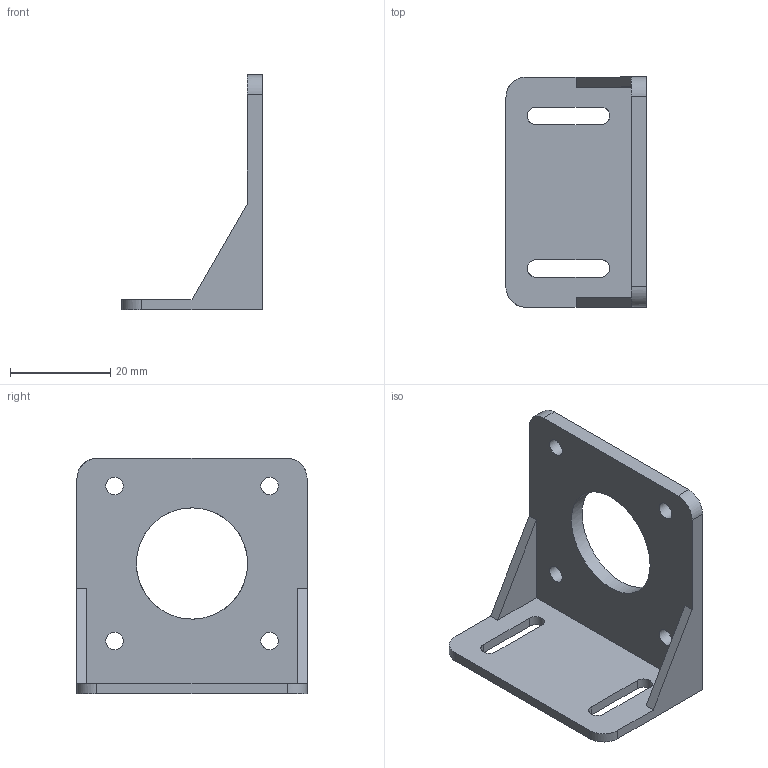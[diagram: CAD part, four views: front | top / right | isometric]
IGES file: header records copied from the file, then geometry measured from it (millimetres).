
Global section: file name: stepper_bracket v9; native system: unknown; preprocessor: unknown; author: unknown; organization: unknown; date: 20200329.203630; units: millimetre
Bounding box: 28 x 46 x 47 mm (x, y, z)
Volume: 7666.3 mm3; surface area: 7039.4 mm2
Topology: 1 solids, 1 shells, 29 faces, 81 edges, 54 vertices
Faces by surface type: bspline 29
